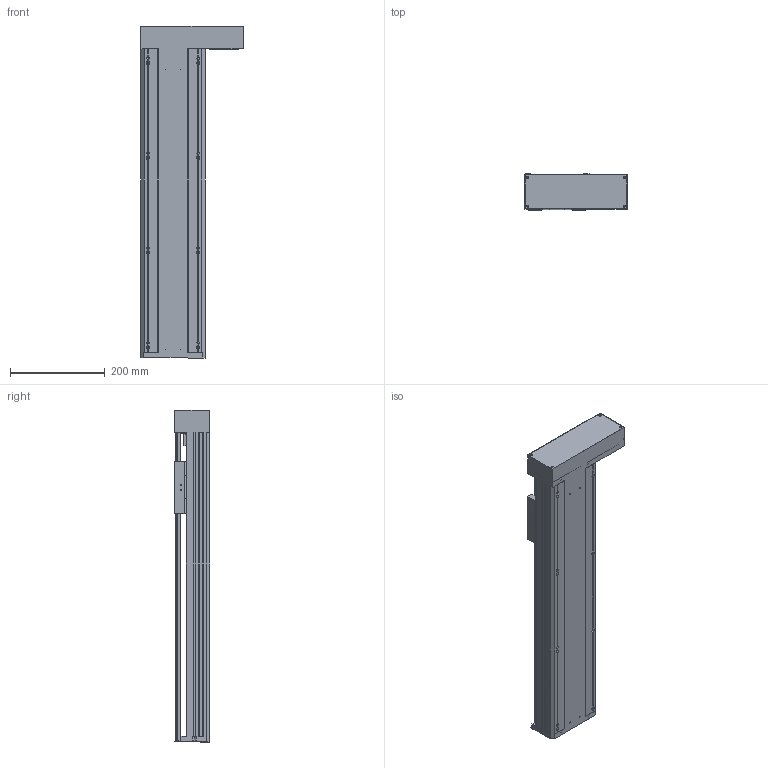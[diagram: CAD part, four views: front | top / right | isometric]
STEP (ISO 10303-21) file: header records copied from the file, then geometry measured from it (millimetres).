
FILE_DESCRIPTION (( 'STEP AP203' ), '1' );
FILE_NAME ('HZMotion TKA136-450A1FR.stp', '2019-03-13T01:46:32', ( 'User' ), ( 'China' ), 'SwSTEP 2.0', 'SolidWorks 2016', '' );
FILE_SCHEMA (( 'CONFIG_CONTROL_DESIGN' ));
Length unit declared in the file: millimetre
Products named in the file (3): HZMotion  TKA136-450A1FR; 136r-01; 100-02
Assembly tree (2 placements, depth 2):
  HZMotion  TKA136-450A1FR
    136r-01
    100-02
Bounding box: 216 x 75 x 700 mm (x, y, z)
Volume: 2316924.5 mm3; surface area: 903320.6 mm2
Topology: 2 solids, 12 shells, 1111 faces, 3096 edges, 1980 vertices
Faces by surface type: cylinder 600, plane 413, cone 98
Entity records: 38405 total; most frequent: CARTESIAN_POINT 9082, DIRECTION 6214, ORIENTED_EDGE 6066, EDGE_CURVE 3033, AXIS2_PLACEMENT_3D 2340, VERTEX_POINT 1978, LINE 1534, VECTOR 1534
